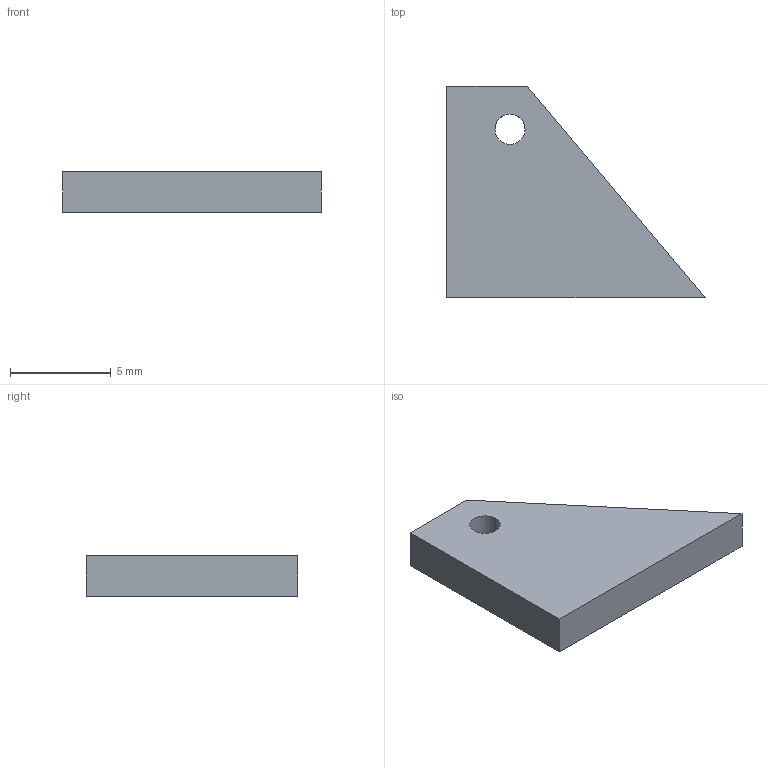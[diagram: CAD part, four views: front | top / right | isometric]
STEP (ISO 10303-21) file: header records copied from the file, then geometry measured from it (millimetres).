
FILE_DESCRIPTION(('STEP AP214'),'1');
FILE_NAME('tmp0.step','2025-04-14T19:54:02',(' '),(' '),'Spatial InterOp 3D',' ',' ');
FILE_SCHEMA(('AUTOMOTIVE_DESIGN { 1 0 10303 214 1 1 1 1 }'));
Length unit declared in the file: millimetre
Products named in the file (1): 1
Bounding box: 12.84 x 10.5 x 2 mm (x, y, z)
Volume: 173.3 mm3; surface area: 264.8 mm2
Topology: 1 solids, 1 shells, 8 faces, 18 edges, 12 vertices
Faces by surface type: plane 6, cylinder 2
Entity records: 255 total; most frequent: DIRECTION 40, CARTESIAN_POINT 39, ORIENTED_EDGE 36, EDGE_CURVE 18, LINE 14, VECTOR 14, AXIS2_PLACEMENT_3D 13, VERTEX_POINT 12
